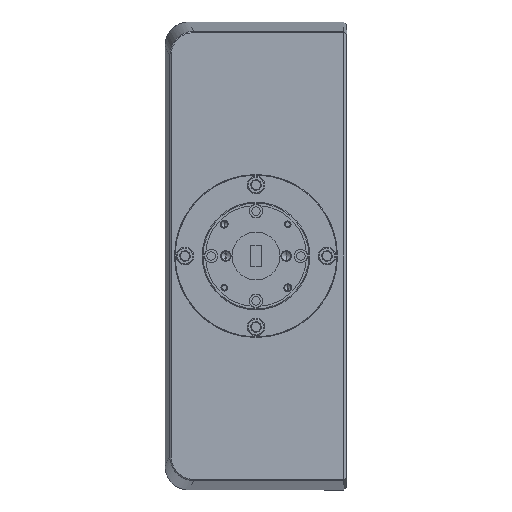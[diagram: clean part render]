
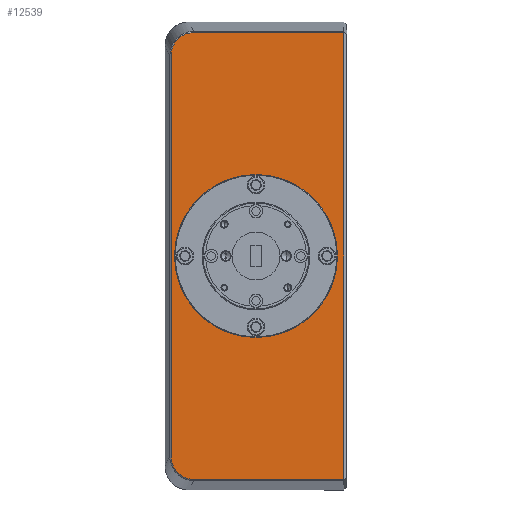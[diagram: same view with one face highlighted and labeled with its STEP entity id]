
A CAD part, left-side view. The second image highlights one B-rep face of the part: STEP entity #12539.
In plain terms, the highlighted planar face has unit normal (-1, 0, 0).
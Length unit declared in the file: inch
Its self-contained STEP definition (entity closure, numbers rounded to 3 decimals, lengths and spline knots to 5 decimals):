
#305 = DIRECTION ( 'NONE',  ( 0., 0., 1. ) ) ;
#436 = DIRECTION ( 'NONE',  ( 0., 1., 0. ) ) ;
#450 = VERTEX_POINT ( 'NONE', #76716 ) ;
#1586 = LINE ( 'NONE', #48728, #49748 ) ;
#2096 = CARTESIAN_POINT ( 'NONE',  ( -2.75, 5.77515, -2.12976 ) ) ;
#3211 = CARTESIAN_POINT ( 'NONE',  ( -2.75, 5.77515, 2.09869 ) ) ;
#3268 = CARTESIAN_POINT ( 'NONE',  ( -2.75, 5.60156, -2.32944 ) ) ;
#4380 = B_SPLINE_CURVE_WITH_KNOTS ( 'NONE', 3,
 ( #72795, #43772, #33200, #45673, #8707, #38277, #16088, #63115, #14920, #3211 ),
 .UNSPECIFIED., .F., .F.,
 ( 4, 2, 2, 2, 4 ),
 ( 0., 0.25, 0.5, 0.75, 1. ),
 .UNSPECIFIED. ) ;
#6013 = VERTEX_POINT ( 'NONE', #8304 ) ;
#6558 = ORIENTED_EDGE ( 'NONE', *, *, #51980, .F. ) ;
#7444 = CARTESIAN_POINT ( 'NONE',  ( -2.75, 4.88748, 0. ) ) ;
#8304 = CARTESIAN_POINT ( 'NONE',  ( -2.75, 5.53978, 2.3356 ) ) ;
#8707 = CARTESIAN_POINT ( 'NONE',  ( -2.75, 5.6846, 2.28822 ) ) ;
#9136 = CARTESIAN_POINT ( 'NONE',  ( -2.75, 5.77515, -2.09869 ) ) ;
#11791 = CARTESIAN_POINT ( 'NONE',  ( -2.75, 5.53978, -2.3356 ) ) ;
#12539 = ADVANCED_FACE ( 'NONE', ( #69532, #15922 ), #57509, .F. ) ;
#14597 = ORIENTED_EDGE ( 'NONE', *, *, #30669, .T. ) ;
#14861 = CARTESIAN_POINT ( 'NONE',  ( -2.75, 4.88748, -0.8525 ) ) ;
#14887 = CARTESIAN_POINT ( 'NONE',  ( -2.75, 3.96748, -2.3356 ) ) ;
#14920 = CARTESIAN_POINT ( 'NONE',  ( -2.75, 5.77515, 2.12984 ) ) ;
#15104 = ORIENTED_EDGE ( 'NONE', *, *, #50624, .T. ) ;
#15922 = FACE_OUTER_BOUND ( 'NONE', #63393, .T. ) ;
#16088 = CARTESIAN_POINT ( 'NONE',  ( -2.75, 5.74551, 2.21814 ) ) ;
#16098 = VECTOR ( 'NONE', #22714, 39.37008 ) ;
#20021 = DIRECTION ( 'NONE',  ( 0., 0., 1. ) ) ;
#21205 = CARTESIAN_POINT ( 'NONE',  ( -2.75, 5.76902, -2.16087 ) ) ;
#22267 = VERTEX_POINT ( 'NONE', #40010 ) ;
#22707 = ORIENTED_EDGE ( 'NONE', *, *, #75783, .F. ) ;
#22714 = DIRECTION ( 'NONE',  ( 0., 0., -1. ) ) ;
#24044 = EDGE_CURVE ( 'NONE', #40059, #41110, #46891, .T. ) ;
#24821 = LINE ( 'NONE', #72231, #65198 ) ;
#25845 = CARTESIAN_POINT ( 'NONE',  ( -2.75, 5.72807, -2.24446 ) ) ;
#25965 = AXIS2_PLACEMENT_3D ( 'NONE', #7444, #48298, #30757 ) ;
#26130 = CIRCLE ( 'NONE', #36103, 0.8525 ) ;
#26587 = DIRECTION ( 'NONE',  ( -1., 0., 0. ) ) ;
#26829 = EDGE_CURVE ( 'NONE', #76186, #450, #64702, .T. ) ;
#26880 = VERTEX_POINT ( 'NONE', #35538 ) ;
#27410 = EDGE_LOOP ( 'NONE', ( #6558, #22707 ) ) ;
#30229 = VERTEX_POINT ( 'NONE', #14861 ) ;
#30669 = EDGE_CURVE ( 'NONE', #6013, #76186, #4380, .T. ) ;
#30757 = DIRECTION ( 'NONE',  ( 0., 0., 1. ) ) ;
#30763 = VECTOR ( 'NONE', #46518, 39.37008 ) ;
#32072 = CARTESIAN_POINT ( 'NONE',  ( -2.75, 4.88748, 0. ) ) ;
#33200 = CARTESIAN_POINT ( 'NONE',  ( -2.75, 5.60156, 2.32944 ) ) ;
#35538 = CARTESIAN_POINT ( 'NONE',  ( -2.75, 3.96748, 2.3356 ) ) ;
#36103 = AXIS2_PLACEMENT_3D ( 'NONE', #32072, #26587, #20021 ) ;
#36194 = B_SPLINE_CURVE_WITH_KNOTS ( 'NONE', 3,
 ( #9136, #2096, #21205, #56184, #25845, #73979, #55802, #3268, #43826, #38748 ),
 .UNSPECIFIED., .F., .F.,
 ( 4, 2, 2, 2, 4 ),
 ( 0., 0.25, 0.5, 0.75, 1. ),
 .UNSPECIFIED. ) ;
#38277 = CARTESIAN_POINT ( 'NONE',  ( -2.75, 5.72807, 2.24446 ) ) ;
#38748 = CARTESIAN_POINT ( 'NONE',  ( -2.75, 5.53978, -2.3356 ) ) ;
#39082 = EDGE_CURVE ( 'NONE', #26880, #6013, #1586, .T. ) ;
#39298 = CARTESIAN_POINT ( 'NONE',  ( -2.75, 4.88748, 0. ) ) ;
#40010 = CARTESIAN_POINT ( 'NONE',  ( -2.75, 4.88748, 0.8525 ) ) ;
#40059 = VERTEX_POINT ( 'NONE', #11791 ) ;
#41110 = VERTEX_POINT ( 'NONE', #14887 ) ;
#43772 = CARTESIAN_POINT ( 'NONE',  ( -2.75, 5.57066, 2.33561 ) ) ;
#43826 = CARTESIAN_POINT ( 'NONE',  ( -2.75, 5.57073, -2.33561 ) ) ;
#45673 = CARTESIAN_POINT ( 'NONE',  ( -2.75, 5.65846, 2.30578 ) ) ;
#46518 = DIRECTION ( 'NONE',  ( 0., -1., 0. ) ) ;
#46891 = LINE ( 'NONE', #69759, #30763 ) ;
#48298 = DIRECTION ( 'NONE',  ( -1., 0., 0. ) ) ;
#48728 = CARTESIAN_POINT ( 'NONE',  ( -2.75, 4.88748, 2.3356 ) ) ;
#49748 = VECTOR ( 'NONE', #436, 39.37008 ) ;
#50624 = EDGE_CURVE ( 'NONE', #450, #40059, #36194, .T. ) ;
#50946 = DIRECTION ( 'NONE',  ( 0., 0., -1. ) ) ;
#51535 = CARTESIAN_POINT ( 'NONE',  ( -2.75, 5.77515, 0. ) ) ;
#51980 = EDGE_CURVE ( 'NONE', #22267, #30229, #26130, .T. ) ;
#54290 = ORIENTED_EDGE ( 'NONE', *, *, #26829, .T. ) ;
#55478 = ORIENTED_EDGE ( 'NONE', *, *, #24044, .T. ) ;
#55802 = CARTESIAN_POINT ( 'NONE',  ( -2.75, 5.65845, -2.30578 ) ) ;
#56184 = CARTESIAN_POINT ( 'NONE',  ( -2.75, 5.74552, -2.21814 ) ) ;
#57509 = PLANE ( 'NONE',  #58294 ) ;
#58294 = AXIS2_PLACEMENT_3D ( 'NONE', #39298, #62955, #50946 ) ;
#61105 = ORIENTED_EDGE ( 'NONE', *, *, #39082, .T. ) ;
#62955 = DIRECTION ( 'NONE',  ( 1., 0., 0. ) ) ;
#63115 = CARTESIAN_POINT ( 'NONE',  ( -2.75, 5.76903, 2.16087 ) ) ;
#63295 = CIRCLE ( 'NONE', #25965, 0.8525 ) ;
#63393 = EDGE_LOOP ( 'NONE', ( #55478, #70854, #61105, #14597, #54290, #15104 ) ) ;
#64702 = LINE ( 'NONE', #51535, #16098 ) ;
#65198 = VECTOR ( 'NONE', #305, 39.37008 ) ;
#69532 = FACE_BOUND ( 'NONE', #27410, .T. ) ;
#69759 = CARTESIAN_POINT ( 'NONE',  ( -2.75, 4.88748, -2.3356 ) ) ;
#70854 = ORIENTED_EDGE ( 'NONE', *, *, #72078, .T. ) ;
#72078 = EDGE_CURVE ( 'NONE', #41110, #26880, #24821, .T. ) ;
#72231 = CARTESIAN_POINT ( 'NONE',  ( -2.75, 3.96748, 0. ) ) ;
#72795 = CARTESIAN_POINT ( 'NONE',  ( -2.75, 5.53978, 2.3356 ) ) ;
#73979 = CARTESIAN_POINT ( 'NONE',  ( -2.75, 5.6846, -2.28822 ) ) ;
#74616 = CARTESIAN_POINT ( 'NONE',  ( -2.75, 5.77515, 2.09869 ) ) ;
#75783 = EDGE_CURVE ( 'NONE', #30229, #22267, #63295, .T. ) ;
#76186 = VERTEX_POINT ( 'NONE', #74616 ) ;
#76716 = CARTESIAN_POINT ( 'NONE',  ( -2.75, 5.77515, -2.09869 ) ) ;
